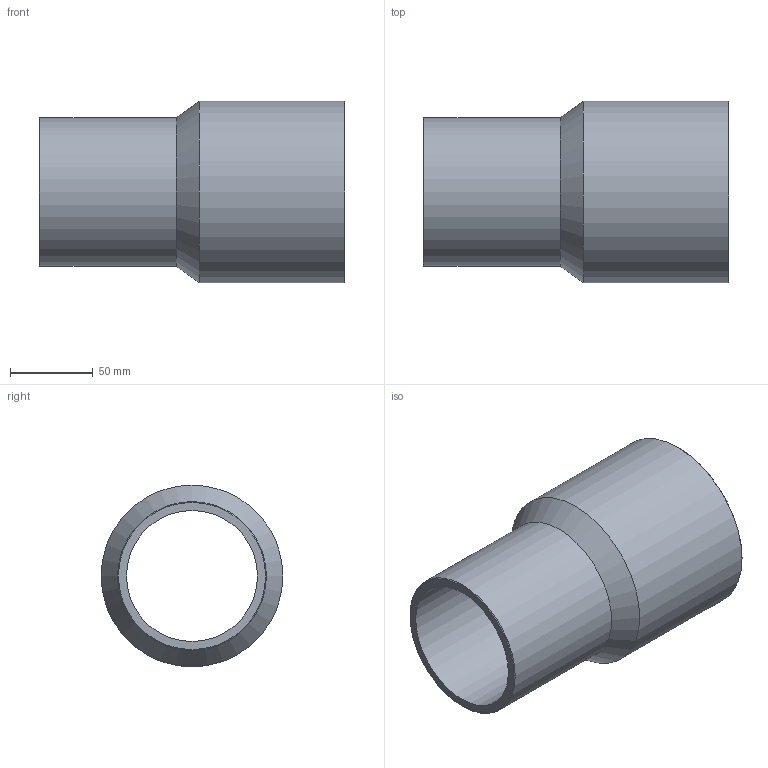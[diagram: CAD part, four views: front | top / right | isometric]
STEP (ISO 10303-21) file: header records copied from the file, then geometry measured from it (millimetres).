
FILE_DESCRIPTION(/* description */ ('Unknown'),/* implementation_level */ '2;1');
FILE_NAME(/* name */ 'RP110090B',/* time_stamp */ '2021-09-17T11:25:04+02:00',/* author */ ('Unknown'),/* organization */ ('Unknown'),/* preprocessor_version */ 'ST-DEVELOPER v16.7',/* originating_system */ 'Solid Edge',/* authorisation */ 'Unknown');
FILE_SCHEMA (('AUTOMOTIVE_DESIGN {1 0 10303 214 3 1 1}'));
Length unit declared in the file: millimetre
Products named in the file (1): RP110090B
Bounding box: 185 x 110 x 110 mm (x, y, z)
Volume: 351049 mm3; surface area: 114082.5 mm2
Topology: 1 solids, 1 shells, 10 faces, 19 edges, 11 vertices
Faces by surface type: cylinder 4, cone 4, plane 2
Full cylindrical faces by diameter (mm): 79.2 x1, 90 x1, 96.8 x1, 110 x1
Entity records: 238 total; most frequent: DIRECTION 42, CARTESIAN_POINT 31, AXIS2_PLACEMENT_3D 21, ORIENTED_EDGE 20, EDGE_LOOP 20, FACE_BOUND 20, EDGE_CURVE 10, VERTEX_POINT 10
